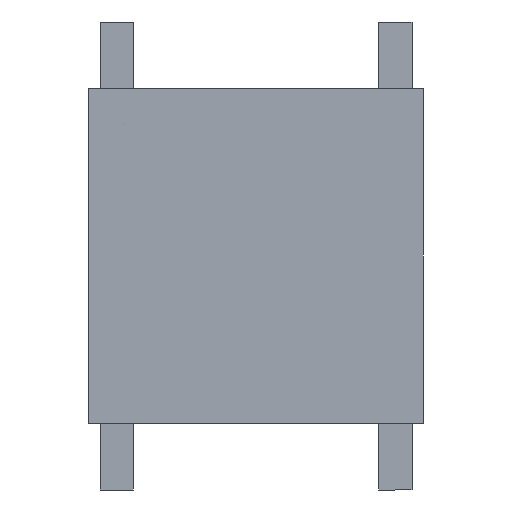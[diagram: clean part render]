
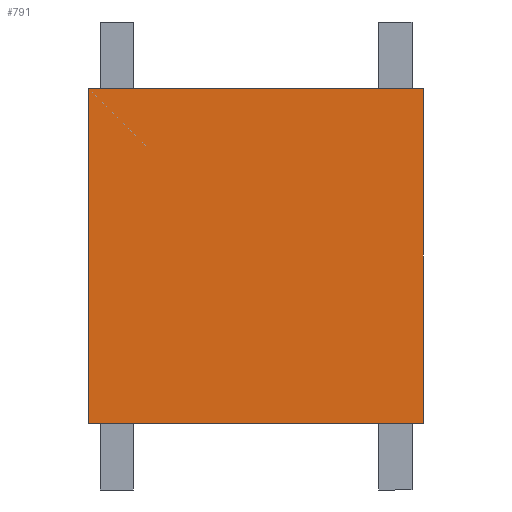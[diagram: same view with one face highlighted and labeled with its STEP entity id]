
A CAD part, front view. The second image highlights one B-rep face of the part: STEP entity #791.
In plain terms, the highlighted planar face has unit normal (0, -1, 0).
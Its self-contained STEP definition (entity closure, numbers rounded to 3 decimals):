
#18 = VECTOR ( 'NONE', #927, 1000. ) ;
#21 = CARTESIAN_POINT ( 'NONE',  ( 3., 0., -3. ) ) ;
#32 = LINE ( 'NONE', #260, #942 ) ;
#94 = CARTESIAN_POINT ( 'NONE',  ( -3., 0., 3. ) ) ;
#260 = CARTESIAN_POINT ( 'NONE',  ( -3., 0., -3. ) ) ;
#266 = EDGE_CURVE ( 'NONE', #492, #1070, #932, .T. ) ;
#273 = CARTESIAN_POINT ( 'NONE',  ( 0., 0., 0. ) ) ;
#290 = CARTESIAN_POINT ( 'NONE',  ( 3., 0., 3. ) ) ;
#304 = EDGE_CURVE ( 'NONE', #1070, #1190, #603, .T. ) ;
#331 = EDGE_CURVE ( 'NONE', #1190, #936, #32, .T. ) ;
#396 = CARTESIAN_POINT ( 'NONE',  ( -3., 0., -3. ) ) ;
#492 = VERTEX_POINT ( 'NONE', #290 ) ;
#583 = CARTESIAN_POINT ( 'NONE',  ( 3., 0., -3. ) ) ;
#603 = LINE ( 'NONE', #21, #18 ) ;
#678 = EDGE_CURVE ( 'NONE', #936, #492, #1261, .T. ) ;
#686 = VECTOR ( 'NONE', #1166, 1000. ) ;
#717 = PLANE ( 'NONE',  #1013 ) ;
#723 = CARTESIAN_POINT ( 'NONE',  ( 3., 0., 3. ) ) ;
#763 = ORIENTED_EDGE ( 'NONE', *, *, #304, .F. ) ;
#791 = ADVANCED_FACE ( 'NONE', ( #842 ), #717, .T. ) ;
#813 = DIRECTION ( 'NONE',  ( 0., 0., -1. ) ) ;
#842 = FACE_OUTER_BOUND ( 'NONE', #1024, .T. ) ;
#864 = ORIENTED_EDGE ( 'NONE', *, *, #678, .F. ) ;
#916 = VECTOR ( 'NONE', #813, 1000. ) ;
#927 = DIRECTION ( 'NONE',  ( -1., 0., 0. ) ) ;
#932 = LINE ( 'NONE', #1256, #916 ) ;
#936 = VERTEX_POINT ( 'NONE', #94 ) ;
#942 = VECTOR ( 'NONE', #949, 1000. ) ;
#949 = DIRECTION ( 'NONE',  ( 0., 0., 1. ) ) ;
#1013 = AXIS2_PLACEMENT_3D ( 'NONE', #273, #1255, #1173 ) ;
#1024 = EDGE_LOOP ( 'NONE', ( #1033, #763, #1148, #864 ) ) ;
#1033 = ORIENTED_EDGE ( 'NONE', *, *, #331, .F. ) ;
#1070 = VERTEX_POINT ( 'NONE', #583 ) ;
#1148 = ORIENTED_EDGE ( 'NONE', *, *, #266, .F. ) ;
#1166 = DIRECTION ( 'NONE',  ( 1., 0., 0. ) ) ;
#1173 = DIRECTION ( 'NONE',  ( 0., 0., -1. ) ) ;
#1190 = VERTEX_POINT ( 'NONE', #396 ) ;
#1255 = DIRECTION ( 'NONE',  ( 0., -1., 0. ) ) ;
#1256 = CARTESIAN_POINT ( 'NONE',  ( 3., 0., -3. ) ) ;
#1261 = LINE ( 'NONE', #723, #686 ) ;
